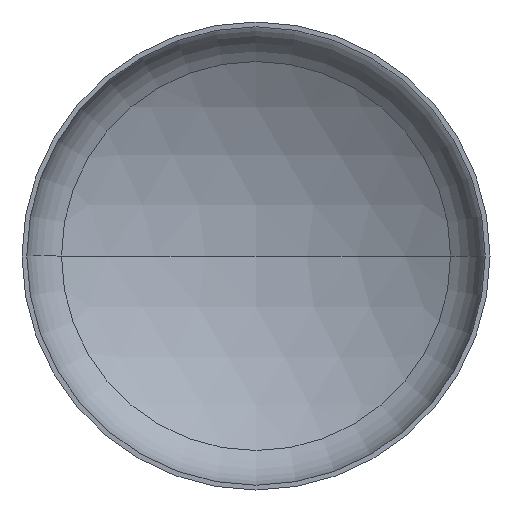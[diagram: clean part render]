
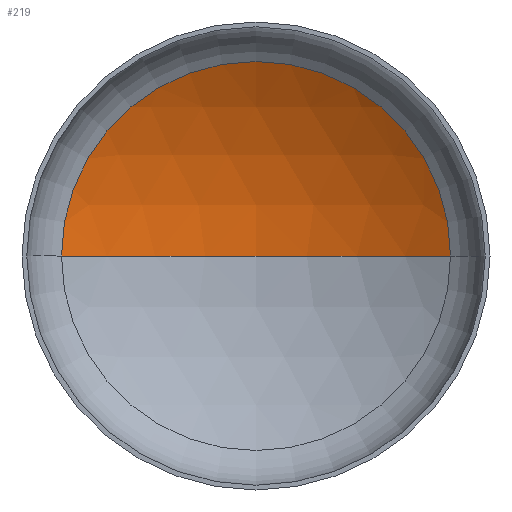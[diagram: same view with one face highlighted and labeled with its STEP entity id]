
A CAD part, front view. The second image highlights one B-rep face of the part: STEP entity #219.
In plain terms, the highlighted spherical face has radius 2880 mm.
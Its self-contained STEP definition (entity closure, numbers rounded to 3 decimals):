
#8 = AXIS2_PLACEMENT_3D ( 'NONE', #324, #228, #145 ) ;
#12 = EDGE_LOOP ( 'NONE', ( #345, #278, #118 ) ) ;
#13 = AXIS2_PLACEMENT_3D ( 'NONE', #231, #173, #352 ) ;
#24 = CARTESIAN_POINT ( 'NONE',  ( 0., -1866.545, 0. ) ) ;
#37 = AXIS2_PLACEMENT_3D ( 'NONE', #24, #78, #146 ) ;
#40 = AXIS2_PLACEMENT_3D ( 'NONE', #109, #116, #155 ) ;
#44 = FACE_OUTER_BOUND ( 'NONE', #12, .T. ) ;
#46 = VERTEX_POINT ( 'NONE', #269 ) ;
#48 = VERTEX_POINT ( 'NONE', #246 ) ;
#78 = DIRECTION ( 'NONE',  ( 0., 0., -1. ) ) ;
#109 = CARTESIAN_POINT ( 'NONE',  ( 0., -1866.545, 0. ) ) ;
#116 = DIRECTION ( 'NONE',  ( 0., 0., -1. ) ) ;
#118 = ORIENTED_EDGE ( 'NONE', *, *, #361, .T. ) ;
#145 = DIRECTION ( 'NONE',  ( 1., 0., 0. ) ) ;
#146 = DIRECTION ( 'NONE',  ( -1., 0., 0. ) ) ;
#148 = VERTEX_POINT ( 'NONE', #299 ) ;
#152 = CIRCLE ( 'NONE', #40, 2880. ) ;
#155 = DIRECTION ( 'NONE',  ( -1., 0., 0. ) ) ;
#173 = DIRECTION ( 'NONE',  ( 0., 0., 1. ) ) ;
#219 = ADVANCED_FACE ( 'NONE', ( #44 ), #305, .F. ) ;
#221 = CIRCLE ( 'NONE', #13, 2880. ) ;
#228 = DIRECTION ( 'NONE',  ( 0., -1., 0. ) ) ;
#231 = CARTESIAN_POINT ( 'NONE',  ( 0., -1866.545, 0. ) ) ;
#246 = CARTESIAN_POINT ( 'NONE',  ( 1496.361, 594.208, 0. ) ) ;
#269 = CARTESIAN_POINT ( 'NONE',  ( 0., 1013.455, 0. ) ) ;
#278 = ORIENTED_EDGE ( 'NONE', *, *, #349, .T. ) ;
#299 = CARTESIAN_POINT ( 'NONE',  ( -1496.361, 594.208, 0. ) ) ;
#305 = SPHERICAL_SURFACE ( 'NONE', #37, 2880. ) ;
#324 = CARTESIAN_POINT ( 'NONE',  ( 0., 594.208, 0. ) ) ;
#340 = CIRCLE ( 'NONE', #8, 1496.361 ) ;
#345 = ORIENTED_EDGE ( 'NONE', *, *, #356, .F. ) ;
#349 = EDGE_CURVE ( 'NONE', #46, #48, #152, .T. ) ;
#352 = DIRECTION ( 'NONE',  ( 1., 0., 0. ) ) ;
#356 = EDGE_CURVE ( 'NONE', #46, #148, #221, .T. ) ;
#361 = EDGE_CURVE ( 'NONE', #48, #148, #340, .T. ) ;
